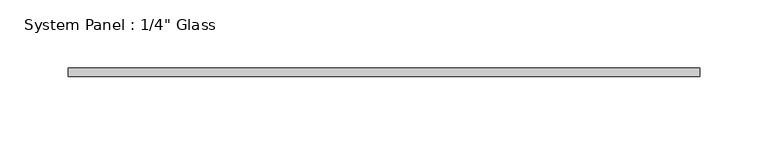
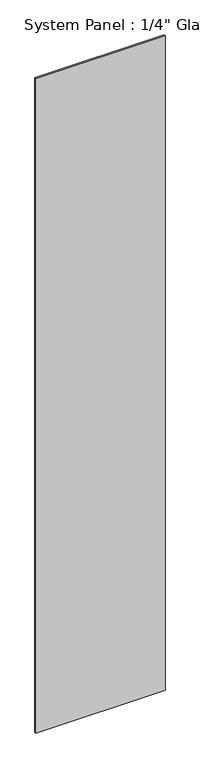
"""IFC4 building model written with IfcOpenShell, lengths in millimetres: plate geometry."""

from ifc_helpers import new_model, si_unit, origin, origin_with_axes, place, context, project, spatial, polyline, outline, extrude, source, transform, mapped, element, save


def plate_6d527a83(model_context):
    return source(origin(), model_context, "Body", "SweptSolid", [
        extrude(outline(polyline([(232.318938, -3.175), (-232.318938, -3.175), (-232.318938, 3.175), (232.318938, 3.175), (232.318938, -3.175)])), origin_with_axes(), (0.0, 0.0, 1.0), 2489.2),
    ])


if __name__ == "__main__":
    model = new_model("IFC4")
    model_context = context("Model", 3, world=origin())
    ifc_project = project(units=[si_unit("LENGTHUNIT", "METRE", prefix="MILLI")], contexts=[model_context])
    site = spatial("IfcSite", under=ifc_project)
    building = spatial("IfcBuilding", under=site)
    placement = place(None, origin())
    plate_shape = plate_6d527a83(model_context)
    element("IfcPlate", 1, ObjectType="System Panel : 1/4\" Glass", at=placement, inside=building, context=model_context, shape_type="MappedRepresentation", body=[
        mapped(plate_shape, transform((0.0, 0.0, 0.0), x_axis=(1.0, 0.0, 0.0), y_axis=(0.0, 1.0, 0.0), z_axis=(0.0, 0.0, 1.0))),
    ])
    save(model, "model.ifc")
